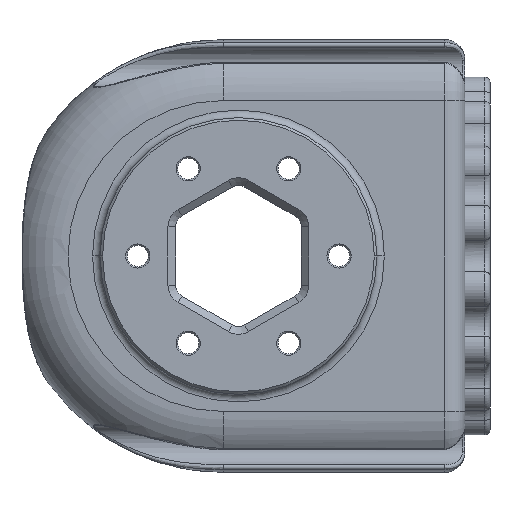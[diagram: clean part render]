
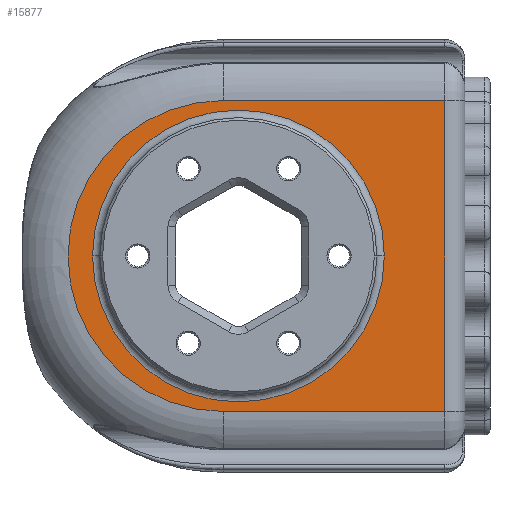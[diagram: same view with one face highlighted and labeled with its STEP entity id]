
A CAD part, front view. The second image highlights one B-rep face of the part: STEP entity #15877.
In plain terms, the highlighted planar face has unit normal (0, -1, 0).
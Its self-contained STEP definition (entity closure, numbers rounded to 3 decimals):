
#6239=DIRECTION('',(0.,0.,1.));
#6240=VECTOR('',#6239,61.8);
#6241=CARTESIAN_POINT('',(31.051,510.697,-30.9));
#6242=LINE('',#6241,#6240);
#6246=DIRECTION('',(1.,0.,0.));
#6247=VECTOR('',#6246,43.972);
#6248=CARTESIAN_POINT('',(-12.921,510.697,-30.9));
#6249=LINE('',#6248,#6247);
#6253=CARTESIAN_POINT('',(-12.921,510.697,0.));
#6254=DIRECTION('',(0.,-1.,0.));
#6255=DIRECTION('',(0.,0.,1.));
#6256=AXIS2_PLACEMENT_3D('',#6253,#6254,#6255);
#6261=CARTESIAN_POINT('',(-9.949,510.697,
0.));
#6262=DIRECTION('',(0.,-1.,0.));
#6263=DIRECTION('',(1.,0.,0.));
#6264=AXIS2_PLACEMENT_3D('',#6261,#6262,#6263);
#6269=CARTESIAN_POINT('',(-9.949,510.697,
0.));
#6270=DIRECTION('',(0.,-1.,0.));
#6271=DIRECTION('',(-1.,0.,0.));
#6272=AXIS2_PLACEMENT_3D('',#6269,#6270,#6271);
#6511=DIRECTION('',(1.,0.,0.));
#6512=VECTOR('',#6511,43.972);
#6513=CARTESIAN_POINT('',(-12.921,510.697,30.9));
#6514=LINE('',#6513,#6512);
#9587=CARTESIAN_POINT('',(-12.921,510.697,30.9));
#9588=CARTESIAN_POINT('',(-12.921,510.697,
-30.9));
#9589=VERTEX_POINT('',#9587);
#9590=VERTEX_POINT('',#9588);
#9781=CARTESIAN_POINT('',(31.051,510.697,-30.9));
#9782=CARTESIAN_POINT('',(31.051,510.697,30.9));
#9783=VERTEX_POINT('',#9781);
#9784=VERTEX_POINT('',#9782);
#10287=CARTESIAN_POINT('',(19.051,510.697,
0.));
#10288=CARTESIAN_POINT('',(-38.949,510.697,
0.));
#10289=VERTEX_POINT('',#10287);
#10290=VERTEX_POINT('',#10288);
#15858=CARTESIAN_POINT('',(-6.216,510.697,
0.));
#15859=DIRECTION('',(0.,1.,0.));
#15860=DIRECTION('',(0.,0.,-1.));
#15861=AXIS2_PLACEMENT_3D('',#15858,#15859,#15860);
#15862=PLANE('',#15861);
#15864=ORIENTED_EDGE('',*,*,#15863,.F.);
#15866=ORIENTED_EDGE('',*,*,#15865,.F.);
#15867=ORIENTED_EDGE('',*,*,#14595,.F.);
#15869=ORIENTED_EDGE('',*,*,#15868,.T.);
#15870=EDGE_LOOP('',(#15864,#15866,#15867,#15869));
#15871=FACE_OUTER_BOUND('',#15870,.F.);
#15872=ORIENTED_EDGE('',*,*,#15848,.T.);
#15874=ORIENTED_EDGE('',*,*,#15873,.T.);
#15875=EDGE_LOOP('',(#15872,#15874));
#15876=FACE_BOUND('',#15875,.F.);
#6257=CIRCLE('',#6256,30.9);
#6265=CIRCLE('',#6264,29.);
#6273=CIRCLE('',#6272,29.);
#14595=EDGE_CURVE('',#9589,#9590,#6257,.T.);
#15848=EDGE_CURVE('',#10289,#10290,#6265,.T.);
#15863=EDGE_CURVE('',#9783,#9784,#6242,.T.);
#15865=EDGE_CURVE('',#9590,#9783,#6249,.T.);
#15868=EDGE_CURVE('',#9589,#9784,#6514,.T.);
#15873=EDGE_CURVE('',#10290,#10289,#6273,.T.);
#15877=ADVANCED_FACE('',(#15871,#15876),#15862,.F.);
